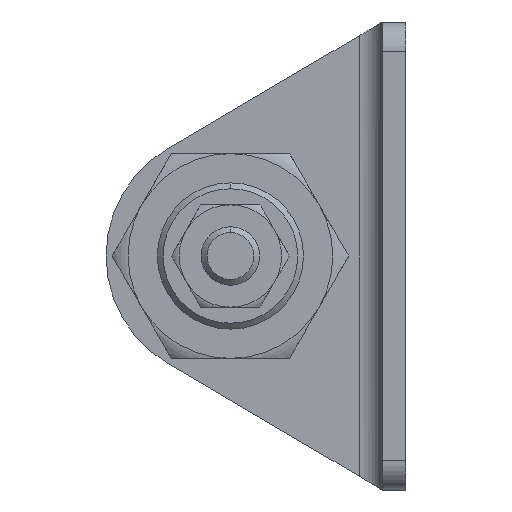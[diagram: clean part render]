
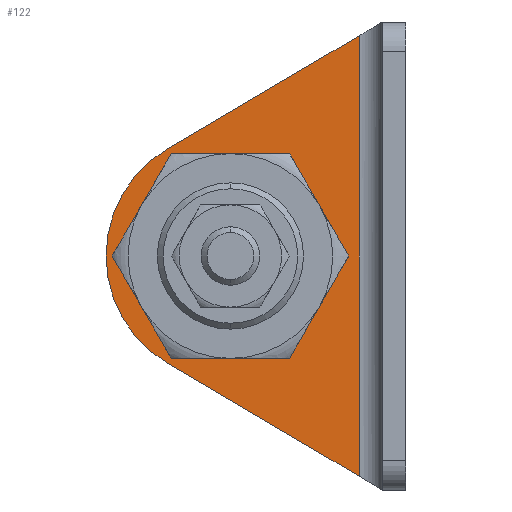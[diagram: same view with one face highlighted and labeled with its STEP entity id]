
A CAD part, left-side view. The second image highlights one B-rep face of the part: STEP entity #122.
In plain terms, the highlighted planar face has unit normal (-1, 0, 0).
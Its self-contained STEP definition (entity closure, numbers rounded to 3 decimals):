
#35 = AXIS2_PLACEMENT_3D ( 'NONE', #3926, #2063, #693 ) ;
#122 = ADVANCED_FACE ( 'NONE', ( #3571, #3767 ), #780, .T. ) ;
#253 = CARTESIAN_POINT ( 'NONE',  ( -1.6, 3.2, 16. ) ) ;
#311 = CARTESIAN_POINT ( 'NONE',  ( -1.6, 17.7, 0. ) ) ;
#476 = EDGE_CURVE ( 'NONE', #3918, #3740, #2275, .T. ) ;
#584 = ORIENTED_EDGE ( 'NONE', *, *, #2034, .T. ) ;
#625 = VERTEX_POINT ( 'NONE', #2506 ) ;
#640 = CARTESIAN_POINT ( 'NONE',  ( -1.6, 16.317, 7.322 ) ) ;
#649 = CARTESIAN_POINT ( 'NONE',  ( -1.6, 6.3, 0. ) ) ;
#693 = DIRECTION ( 'NONE',  ( 0., -1., 0. ) ) ;
#699 = CARTESIAN_POINT ( 'NONE',  ( -1.6, 1.6, 16. ) ) ;
#780 = PLANE ( 'NONE',  #3750 ) ;
#824 = VECTOR ( 'NONE', #1744, 1000. ) ;
#825 = LINE ( 'NONE', #699, #2703 ) ;
#993 = LINE ( 'NONE', #253, #1695 ) ;
#1112 = ORIENTED_EDGE ( 'NONE', *, *, #1713, .T. ) ;
#1195 = CARTESIAN_POINT ( 'NONE',  ( -1.6, 12., 0. ) ) ;
#1231 = DIRECTION ( 'NONE',  ( -1., 0., 0. ) ) ;
#1303 = CARTESIAN_POINT ( 'NONE',  ( -1.6, 1.6, 16. ) ) ;
#1452 = VERTEX_POINT ( 'NONE', #640 ) ;
#1509 = ORIENTED_EDGE ( 'NONE', *, *, #2245, .F. ) ;
#1676 = CARTESIAN_POINT ( 'NONE',  ( -1.6, 12., 0. ) ) ;
#1695 = VECTOR ( 'NONE', #2807, 1000. ) ;
#1713 = EDGE_CURVE ( 'NONE', #1452, #3918, #2726, .T. ) ;
#1744 = DIRECTION ( 'NONE',  ( 0., -0.861, -0.508 ) ) ;
#1748 = ORIENTED_EDGE ( 'NONE', *, *, #3019, .F. ) ;
#1804 = EDGE_CURVE ( 'NONE', #625, #3740, #993, .T. ) ;
#1920 = CIRCLE ( 'NONE', #35, 5.7 ) ;
#2034 = EDGE_CURVE ( 'NONE', #625, #1452, #825, .T. ) ;
#2063 = DIRECTION ( 'NONE',  ( -1., 0., 0. ) ) ;
#2230 = DIRECTION ( 'NONE',  ( -1., 0., 0. ) ) ;
#2245 = EDGE_CURVE ( 'NONE', #3291, #3743, #1920, .T. ) ;
#2275 = LINE ( 'NONE', #3887, #824 ) ;
#2338 = DIRECTION ( 'NONE',  ( -1., 0., 0. ) ) ;
#2340 = AXIS2_PLACEMENT_3D ( 'NONE', #1195, #2230, #2557 ) ;
#2506 = CARTESIAN_POINT ( 'NONE',  ( -1.6, 3.2, 15.057 ) ) ;
#2557 = DIRECTION ( 'NONE',  ( 0., -1., 0. ) ) ;
#2659 = DIRECTION ( 'NONE',  ( 0., -1., 0. ) ) ;
#2703 = VECTOR ( 'NONE', #3552, 1000. ) ;
#2705 = CIRCLE ( 'NONE', #2340, 5.7 ) ;
#2726 = CIRCLE ( 'NONE', #3350, 8.5 ) ;
#2807 = DIRECTION ( 'NONE',  ( 0., 0., -1. ) ) ;
#2816 = ORIENTED_EDGE ( 'NONE', *, *, #1804, .F. ) ;
#2825 = ORIENTED_EDGE ( 'NONE', *, *, #476, .T. ) ;
#2905 = DIRECTION ( 'NONE',  ( 0., -1., 0. ) ) ;
#2980 = EDGE_LOOP ( 'NONE', ( #584, #1112, #2825, #2816 ) ) ;
#3019 = EDGE_CURVE ( 'NONE', #3743, #3291, #2705, .T. ) ;
#3291 = VERTEX_POINT ( 'NONE', #311 ) ;
#3350 = AXIS2_PLACEMENT_3D ( 'NONE', #1676, #1231, #2659 ) ;
#3377 = CARTESIAN_POINT ( 'NONE',  ( -1.6, 16.317, -7.322 ) ) ;
#3378 = EDGE_LOOP ( 'NONE', ( #1748, #1509 ) ) ;
#3552 = DIRECTION ( 'NONE',  ( 0., 0.861, -0.508 ) ) ;
#3571 = FACE_BOUND ( 'NONE', #3378, .T. ) ;
#3701 = CARTESIAN_POINT ( 'NONE',  ( -1.6, 3.2, -15.057 ) ) ;
#3740 = VERTEX_POINT ( 'NONE', #3701 ) ;
#3743 = VERTEX_POINT ( 'NONE', #649 ) ;
#3750 = AXIS2_PLACEMENT_3D ( 'NONE', #1303, #2338, #2905 ) ;
#3767 = FACE_OUTER_BOUND ( 'NONE', #2980, .T. ) ;
#3887 = CARTESIAN_POINT ( 'NONE',  ( -1.6, 15.601, -7.744 ) ) ;
#3918 = VERTEX_POINT ( 'NONE', #3377 ) ;
#3926 = CARTESIAN_POINT ( 'NONE',  ( -1.6, 12., 0. ) ) ;
